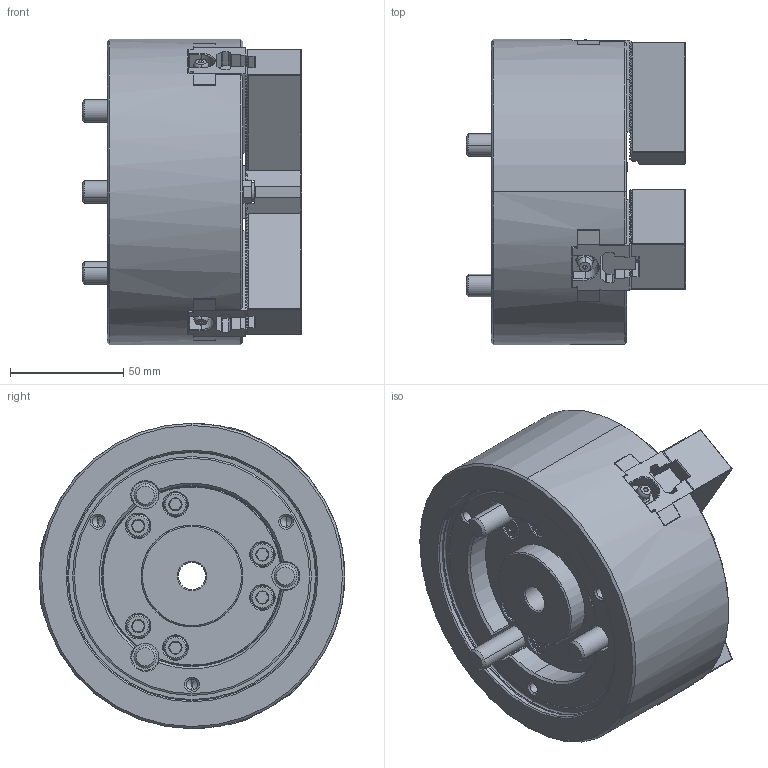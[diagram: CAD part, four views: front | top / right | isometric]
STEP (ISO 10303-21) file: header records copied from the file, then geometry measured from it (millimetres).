
FILE_DESCRIPTION (( 'STEP AP214' ), '1' );
FILE_NAME ('B-205_UC.STEP', '2025-12-03T06:49:01', ( '' ), ( '' ), 'SwSTEP 2.0', 'SolidWorks 2022', '' );
FILE_SCHEMA (( 'AUTOMOTIVE_DESIGN' ));
Length unit declared in the file: millimetre
Products named in the file (9): DT1_B-205_M10x60^DT1_B-205; DT1_B-205_TNUT^DT1_B-205; B-205_UC; DT1_B-205_M8x20^DT1_B-205; DT1_B-205_DRAWNUT^DT1_B-205; DT1_B-205_BASE^DT1_B-205; DT1_B-205_COVER^DT1_B-205; DT1_B-205_SOFTJAW^DT1_B-205; DT1_B-205_M4x8^DT1_B-205
Assembly tree (21 placements, depth 2):
  B-205_UC
    DT1_B-205_SOFTJAW^DT1_B-205  x3
    DT1_B-205_TNUT^DT1_B-205  x3
    DT1_B-205_DRAWNUT^DT1_B-205
    DT1_B-205_COVER^DT1_B-205
    DT1_B-205_BASE^DT1_B-205
    DT1_B-205_M4x8^DT1_B-205  x3
    DT1_B-205_M8x20^DT1_B-205  x6
    DT1_B-205_M10x60^DT1_B-205  x3
Bounding box: 97 x 135 x 135 mm (x, y, z)
Volume: 810834 mm3; surface area: 145187.2 mm2
Topology: 21 solids, 33 shells, 3239 faces, 8948 edges, 5829 vertices
Faces by surface type: plane 2414, cylinder 309, cone 298, bspline 162, torus 44, sphere 12
Entity records: 86248 total; most frequent: CARTESIAN_POINT 24277, ORIENTED_EDGE 13582, DIRECTION 11412, EDGE_CURVE 6791, LINE 5238, VECTOR 5238, VERTEX_POINT 4449, AXIS2_PLACEMENT_3D 3087
